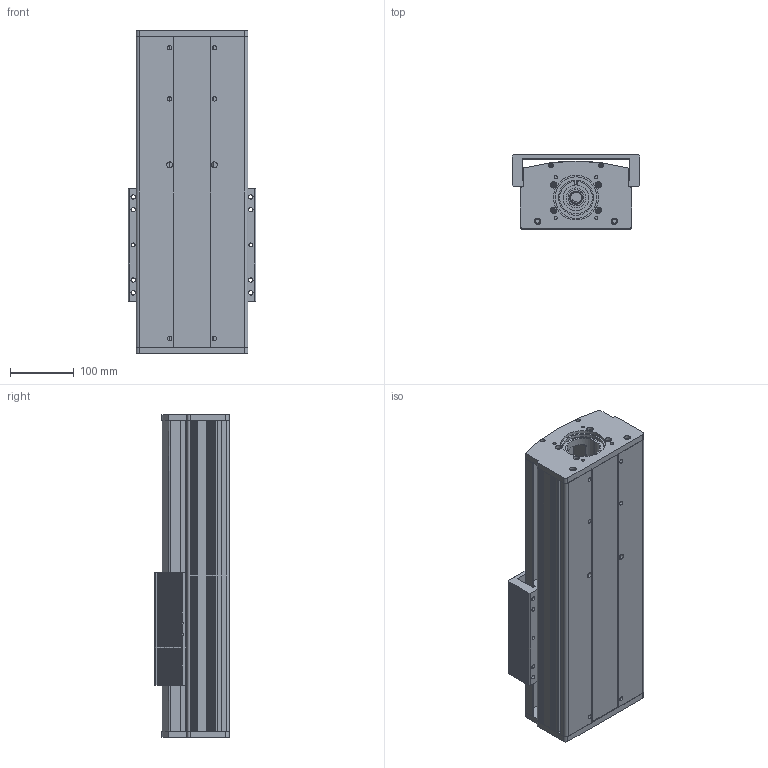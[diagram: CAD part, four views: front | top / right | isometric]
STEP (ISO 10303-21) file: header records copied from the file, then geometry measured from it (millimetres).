
FILE_DESCRIPTION (( 'STEP AP203' ), '1' );
FILE_NAME ('CF175-2-P150.STEP', '2016-03-11T05:42:08', ( 'Sky123.Org' ), ( 'Sky123.Org' ), 'SwSTEP 2.0', 'SolidWorks 2015', '' );
FILE_SCHEMA (( 'CONFIG_CONTROL_DESIGN' ));
Length unit declared in the file: millimetre
Products named in the file (13): CF175-2蹟譫釱; Y1-CF175-2-P1200-1547裔啣; Y1-CF175-2-P1200-1547臏倰第; Y1-HGR20-1500絳寢; CF-HGH20CA賑輸; CF175-2賑雄啣; SFU2505-4; 175-2梓袧嘐隅釱; X1-SFS2525-1185; 175-2侜督80萇儂釱; 175-2耜啣; CF175-2-P150; 175-2盓傅釱
Assembly tree (16 placements, depth 2):
  CF175-2-P150
    CF-HGH20CA賑輸  x4
    SFU2505-4
    X1-SFS2525-1185
    175-2耜啣
    175-2盓傅釱
    CF175-2蹟譫釱
    Y1-CF175-2-P1200-1547裔啣
    Y1-CF175-2-P1200-1547臏倰第
    Y1-HGR20-1500絳寢  x2
    CF175-2賑雄啣
    175-2梓袧嘐隅釱
    175-2侜督80萇儂釱
Bounding box: 200 x 116.8 x 505 mm (x, y, z)
Volume: 5412565.5 mm3; surface area: 1405376.7 mm2
Topology: 22 solids, 22 shells, 1350 faces, 3591 edges, 2378 vertices
Faces by surface type: cylinder 687, plane 639, cone 20, bspline 4
Entity records: 40642 total; most frequent: CARTESIAN_POINT 11079, DIRECTION 6066, ORIENTED_EDGE 5724, EDGE_CURVE 2862, AXIS2_PLACEMENT_3D 2248, VERTEX_POINT 1894, LINE 1570, VECTOR 1570
